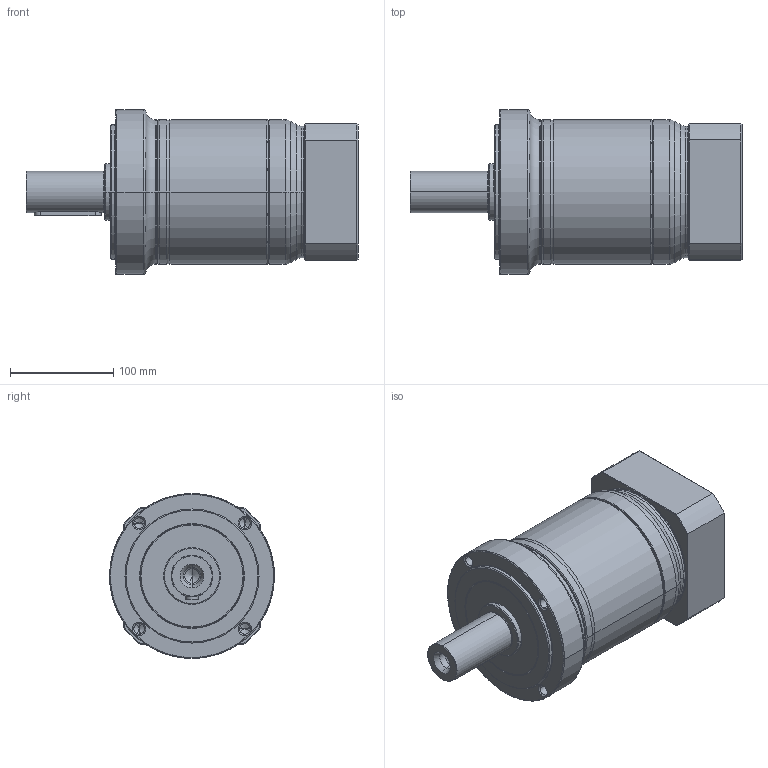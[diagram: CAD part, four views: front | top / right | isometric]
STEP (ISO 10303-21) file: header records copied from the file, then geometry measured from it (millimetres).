
FILE_DESCRIPTION((''),'2;1');
FILE_NAME('PG2-160_2ST_35-P0411800101_ASM','2016-04-13T',('d01943'),(''),'PRO/ENGINEER BY PARAMETRIC TECHNOLOGY CORPORATION, 2008410','PRO/ENGINEER BY PARAMETRIC TECHNOLOGY CORPORATION, 2008410','');
FILE_SCHEMA(('CONFIG_CONTROL_DESIGN'));
Length unit declared in the file: millimetre
Products named in the file (9): P1325510001; P0251500001; P1324500401; P0350501103; P0941504001; P0503800010; P0411800101; P1702600001; PG2-160_2ST_35-P0411800101_ASM
Assembly tree (8 placements, depth 2):
  PG2-160_2ST_35-P0411800101_ASM
    P1325510001
    P0251500001
    P1324500401
    P0350501103
    P0941504001
    P0503800010
    P0411800101
    P1702600001
Bounding box: 322 x 160 x 160 mm (x, y, z)
Volume: 2645880.2 mm3; surface area: 389325.8 mm2
Topology: 8 solids, 9 shells, 489 faces, 1074 edges, 615 vertices
Faces by surface type: cone 146, cylinder 146, torus 102, plane 79, bspline 16
Entity records: 18022 total; most frequent: CARTESIAN_POINT 7042, DIRECTION 2508, ORIENTED_EDGE 2080, AXIS2_PLACEMENT_3D 1076, EDGE_CURVE 1040, VERTEX_POINT 615, CIRCLE 586, EDGE_LOOP 553
